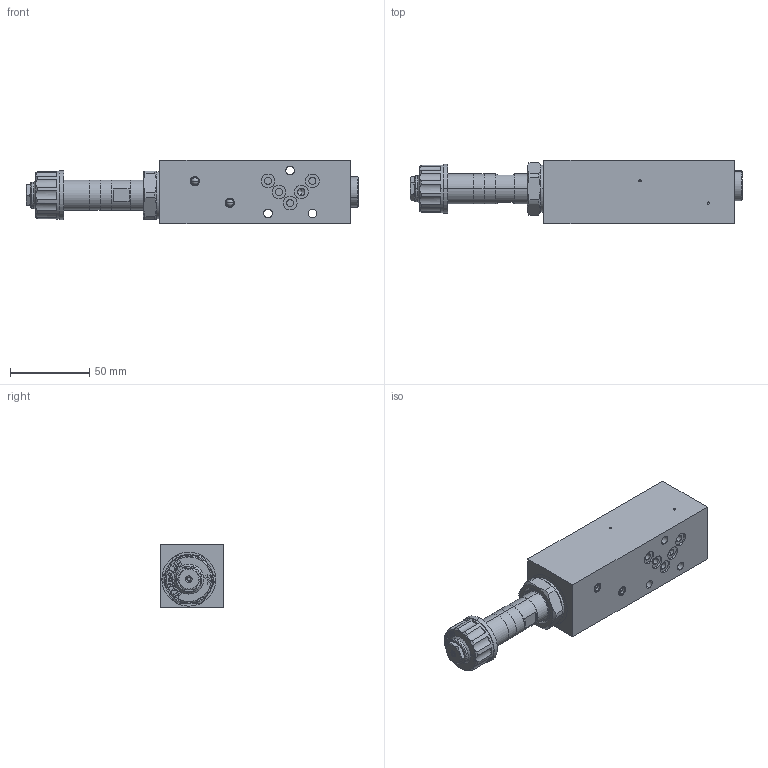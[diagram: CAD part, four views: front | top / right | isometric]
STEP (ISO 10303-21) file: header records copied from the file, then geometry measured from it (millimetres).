
FILE_DESCRIPTION (( 'STEP AP214' ), '1' );
FILE_NAME ('M.PFA04-P_A.STEP', '2017-03-31T06:04:25', ( '' ), ( '' ), 'SwSTEP 2.0', 'SolidWorks 2016', '' );
FILE_SCHEMA (( 'AUTOMOTIVE_DESIGN' ));
Length unit declared in the file: millimetre
Products named in the file (1): M.PFA04-P_A
Bounding box: 209 x 40 x 40 mm (x, y, z)
Volume: 222021.8 mm3; surface area: 35783.3 mm2
Topology: 2 solids, 4 shells, 481 faces, 1160 edges, 750 vertices
Faces by surface type: plane 231, cylinder 124, cone 64, bspline 38, torus 12, sphere 12
Entity records: 21134 total; most frequent: CARTESIAN_POINT 4886, ORIENTED_EDGE 2316, DIRECTION 2287, EDGE_CURVE 1158, AXIS2_PLACEMENT_3D 821, VERTEX_POINT 750, VECTOR 645, LINE 645
